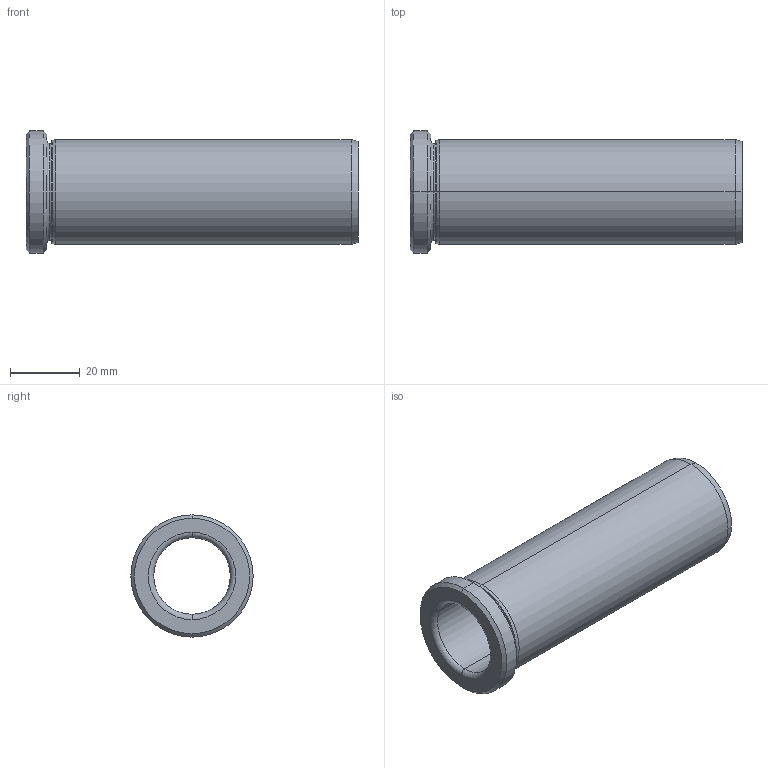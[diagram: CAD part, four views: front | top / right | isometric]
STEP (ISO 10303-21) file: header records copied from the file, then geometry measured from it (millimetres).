
FILE_DESCRIPTION (( 'STEP AP214' ), '1' );
FILE_NAME ('BRCVBG-22X95.STEP', '2020-07-21T12:26:51', ( '' ), ( '' ), 'SwSTEP 2.0', 'SolidWorks 2018', '' );
FILE_SCHEMA (( 'AUTOMOTIVE_DESIGN' ));
Length unit declared in the file: millimetre
Products named in the file (1): BRCVBG-22X95
Bounding box: 95 x 35 x 35 mm (x, y, z)
Volume: 32447.4 mm3; surface area: 16718.7 mm2
Topology: 1 solids, 1 shells, 30 faces, 60 edges, 34 vertices
Faces by surface type: cylinder 10, torus 8, cone 8, plane 4
Entity records: 820 total; most frequent: DIRECTION 164, CARTESIAN_POINT 125, ORIENTED_EDGE 120, AXIS2_PLACEMENT_3D 73, EDGE_CURVE 60, CIRCLE 42, EDGE_LOOP 34, VERTEX_POINT 34
